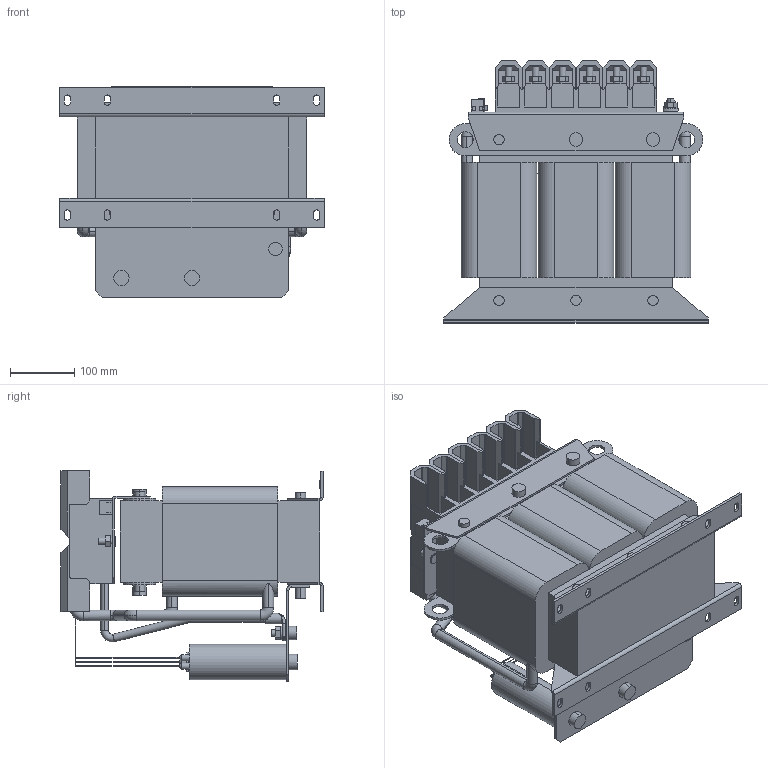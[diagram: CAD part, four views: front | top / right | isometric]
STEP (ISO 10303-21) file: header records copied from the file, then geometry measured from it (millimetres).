
FILE_DESCRIPTION (( 'STEP AP214' ), '1' );
FILE_NAME ('00Z1GX4-0024.STEP', '2022-11-16T11:24:03', ( '' ), ( '' ), 'SwSTEP 2.0', 'SolidWorks 2022', '' );
FILE_SCHEMA (( 'AUTOMOTIVE_DESIGN' ));
Length unit declared in the file: millimetre
Products named in the file (1): 00Z1GX4-0024
Bounding box: 412 x 408.1 x 327.75 mm (x, y, z)
Volume: 20248149.4 mm3; surface area: 1242587.1 mm2
Topology: 1 solids, 1 shells, 1002 faces, 2665 edges, 1723 vertices
Faces by surface type: plane 550, cylinder 340, torus 72, bspline 28, cone 12
Entity records: 38098 total; most frequent: CARTESIAN_POINT 12613, ORIENTED_EDGE 5330, DIRECTION 5206, EDGE_CURVE 2665, AXIS2_PLACEMENT_3D 1768, VERTEX_POINT 1723, LINE 1670, VECTOR 1670
